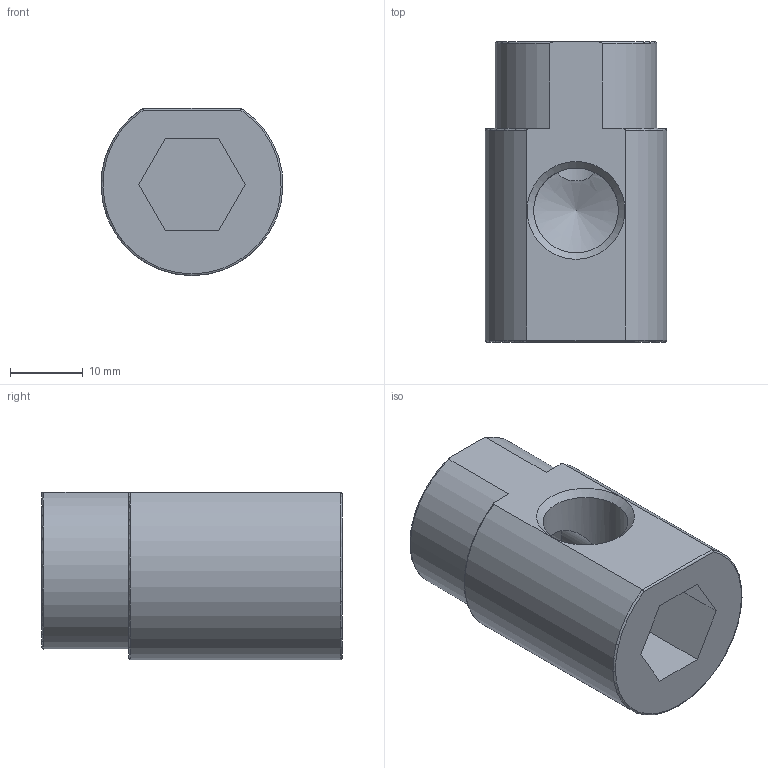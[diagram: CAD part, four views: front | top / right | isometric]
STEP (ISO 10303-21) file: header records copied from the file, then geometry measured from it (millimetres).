
FILE_DESCRIPTION(/* description */ (''),/* implementation_level */ '2;1');
FILE_NAME(/* name */ 'C:/Users/drich/Desktop/HKL1438 v1.step',/* time_stamp */ '2019-12-27T17:58:25-06:00',/* author */ (''),/* organization */ (''),/* preprocessor_version */ 'ST-DEVELOPER v18',/* originating_system */ 'Autodesk Translation Framework v8.12.0.6',/* authorisation */ '');
FILE_SCHEMA (('AUTOMOTIVE_DESIGN { 1 0 10303 214 3 1 1 }'));
Length unit declared in the file: inch
Products named in the file (1): HKL1438
Bounding box: 25.01 x 41.27 x 23.01 mm (x, y, z)
Volume: 12871.1 mm3; surface area: 5542.6 mm2
Topology: 1 solids, 1 shells, 26 faces, 68 edges, 45 vertices
Faces by surface type: plane 12, cylinder 6, cone 5, torus 3
Full cylindrical faces by diameter (mm): 10.312 x1, 11.668 x1, 13.889 x1
Entity records: 980 total; most frequent: CARTESIAN_POINT 295, ORIENTED_EDGE 134, DIRECTION 131, EDGE_CURVE 67, AXIS2_PLACEMENT_3D 48, VERTEX_POINT 45, LINE 35, VECTOR 35
